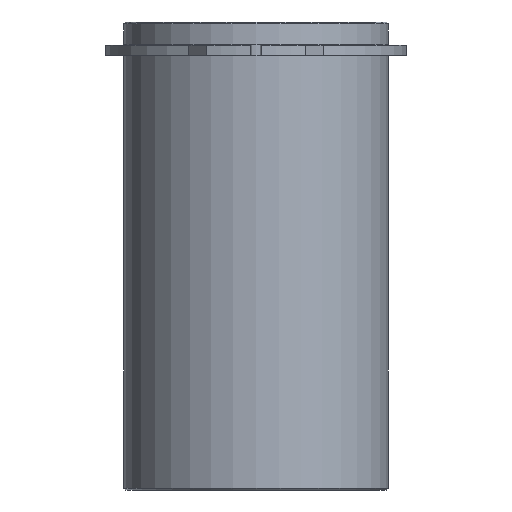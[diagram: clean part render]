
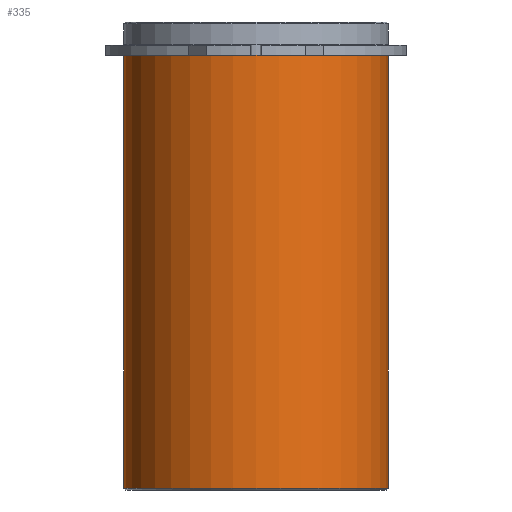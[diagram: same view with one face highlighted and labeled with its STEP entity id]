
A CAD part, front view. The second image highlights one B-rep face of the part: STEP entity #335.
In plain terms, the highlighted cylindrical face has radius 22.625 mm (diameter 45.25 mm), a partial arc.
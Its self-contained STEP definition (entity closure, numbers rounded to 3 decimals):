
#294=CARTESIAN_POINT('',(0.0,0.,-37.0));
#295=DIRECTION('',(0.0,0.,1.0));
#296=DIRECTION('',(1.0,0.0,0.0));
#297=AXIS2_PLACEMENT_3D('',#294,#295,#296);
#298=CYLINDRICAL_SURFACE('',#297,22.625);
#299=CARTESIAN_POINT('',(22.625,0.0,0.0));
#300=VERTEX_POINT('',#299);
#301=CARTESIAN_POINT('',(22.625,0.,-74.0));
#302=VERTEX_POINT('',#301);
#303=CARTESIAN_POINT('',(22.625,0.0,0.0));
#304=DIRECTION('',(0.0,0.0,-1.0));
#305=VECTOR('',#304,74.0);
#306=LINE('',#303,#305);
#307=EDGE_CURVE('',#300,#302,#306,.T.);
#308=ORIENTED_EDGE('',*,*,#307,.F.);
#309=CARTESIAN_POINT('',(-22.625,0.,0.0));
#310=VERTEX_POINT('',#309);
#311=CARTESIAN_POINT('',(0.0,0.0,0.0));
#312=DIRECTION('',(0.0,0.0,1.0));
#313=DIRECTION('',(1.0,0.0,0.0));
#314=AXIS2_PLACEMENT_3D('',#311,#312,#313);
#315=CIRCLE('',#314,22.625);
#316=EDGE_CURVE('',#310,#300,#315,.T.);
#317=ORIENTED_EDGE('',*,*,#316,.F.);
#318=CARTESIAN_POINT('',(-22.625,0.,-74.0));
#319=VERTEX_POINT('',#318);
#320=CARTESIAN_POINT('',(-22.625,0.,0.0));
#321=DIRECTION('',(0.0,0.0,-1.0));
#322=VECTOR('',#321,74.0);
#323=LINE('',#320,#322);
#324=EDGE_CURVE('',#310,#319,#323,.T.);
#325=ORIENTED_EDGE('',*,*,#324,.T.);
#326=CARTESIAN_POINT('',(0.0,0.,-74.0));
#327=DIRECTION('',(0.0,0.0,1.0));
#328=DIRECTION('',(1.0,0.0,0.0));
#329=AXIS2_PLACEMENT_3D('',#326,#327,#328);
#330=CIRCLE('',#329,22.625);
#331=EDGE_CURVE('',#319,#302,#330,.T.);
#332=ORIENTED_EDGE('',*,*,#331,.T.);
#333=EDGE_LOOP('',(#308,#317,#325,#332));
#334=FACE_OUTER_BOUND('',#333,.T.);
#335=ADVANCED_FACE('',(#334),#298,.T.);
